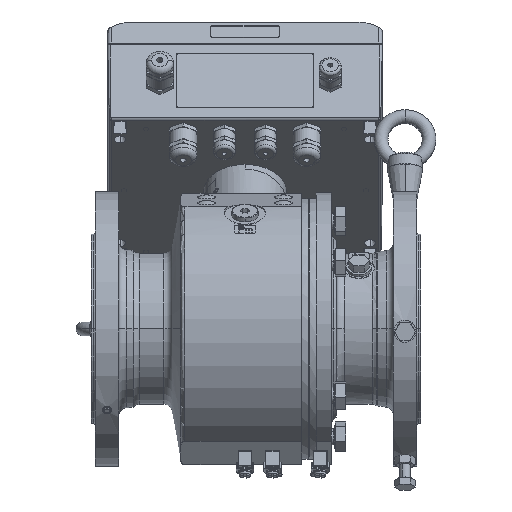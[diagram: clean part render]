
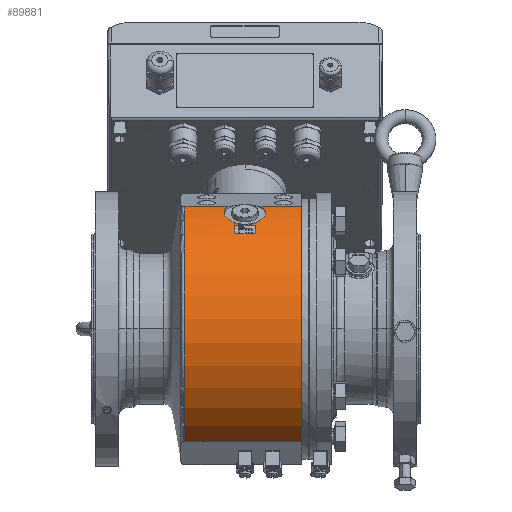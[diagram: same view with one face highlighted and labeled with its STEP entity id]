
A CAD part, front view. The second image highlights one B-rep face of the part: STEP entity #89881.
In plain terms, the highlighted cylindrical face has radius 99 mm (diameter 198 mm), a partial arc.
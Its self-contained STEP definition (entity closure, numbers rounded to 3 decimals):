
#17620=DIRECTION('',(-1.,0.,0.));
#17621=VECTOR('',#17620,28.404);
#17622=CARTESIAN_POINT('',(41.,-43.834,88.767));
#17623=LINE('4603',#17622,#17621);
#17627=CARTESIAN_POINT('',(41.,0.,0.));
#17628=DIRECTION('',(1.,0.,0.));
#17629=DIRECTION('',(0.,-0.443,0.897));
#17630=AXIS2_PLACEMENT_3D('',#17627,#17628,#17629);
#17635=DIRECTION('',(-1.,0.,0.));
#17636=VECTOR('',#17635,84.724);
#17637=CARTESIAN_POINT('',(41.,-55.85,-81.742));
#17638=LINE('4594',#17637,#17636);
#17642=DIRECTION('',(-1.,0.,0.));
#17643=VECTOR('',#17642,31.128);
#17644=CARTESIAN_POINT('',(-12.596,-43.834,
88.767));
#17645=LINE('4604',#17644,#17643);
#17994=CARTESIAN_POINT('',(-43.724,0.,0.));
#17995=DIRECTION('',(1.,0.,0.));
#17996=DIRECTION('',(0.,-0.443,0.897));
#17997=AXIS2_PLACEMENT_3D('',#17994,#17995,#17996);
#32644=CARTESIAN_POINT('',(12.596,-43.834,
88.767));
#32645=CARTESIAN_POINT('',(12.748,-44.045,
88.663));
#32646=CARTESIAN_POINT('',(13.038,-44.474,
88.449));
#32647=CARTESIAN_POINT('',(13.433,-45.135,
88.113));
#32648=CARTESIAN_POINT('',(13.785,-45.811,
87.764));
#32649=CARTESIAN_POINT('',(14.094,-46.5,
87.401));
#32650=CARTESIAN_POINT('',(14.359,-47.198,
87.026));
#32651=CARTESIAN_POINT('',(14.579,-47.905,
86.639));
#32652=CARTESIAN_POINT('',(14.754,-48.616,
86.242));
#32653=CARTESIAN_POINT('',(14.884,-49.332,
85.835));
#32654=CARTESIAN_POINT('',(14.968,-50.048,
85.419));
#32655=CARTESIAN_POINT('',(15.005,-50.764,
84.996));
#32656=CARTESIAN_POINT('',(14.997,-51.477,
84.566));
#32657=CARTESIAN_POINT('',(14.942,-52.184,
84.131));
#32658=CARTESIAN_POINT('',(14.842,-52.886,
83.692));
#32659=CARTESIAN_POINT('',(14.695,-53.577,
83.251));
#32660=CARTESIAN_POINT('',(14.503,-54.258,
82.809));
#32661=CARTESIAN_POINT('',(14.266,-54.926,
82.367));
#32662=CARTESIAN_POINT('',(13.985,-55.58,
81.927));
#32663=CARTESIAN_POINT('',(13.66,-56.217,
81.491));
#32664=CARTESIAN_POINT('',(13.292,-56.836,
81.061));
#32665=CARTESIAN_POINT('',(12.882,-57.435,
80.637));
#32666=CARTESIAN_POINT('',(12.432,-58.011,
80.224));
#32667=CARTESIAN_POINT('',(11.942,-58.565,
79.82));
#32668=CARTESIAN_POINT('',(11.415,-59.093,
79.43));
#32669=CARTESIAN_POINT('',(10.851,-59.595,
79.054));
#32670=CARTESIAN_POINT('',(10.254,-60.069,
78.695));
#32671=CARTESIAN_POINT('',(9.625,-60.513,
78.353));
#32672=CARTESIAN_POINT('',(8.965,-60.927,
78.032));
#32673=CARTESIAN_POINT('',(8.279,-61.31,
77.732));
#32674=CARTESIAN_POINT('',(7.566,-61.66,
77.454));
#32675=CARTESIAN_POINT('',(6.831,-61.977,
77.201));
#32676=CARTESIAN_POINT('',(6.075,-62.26,
76.972));
#32677=CARTESIAN_POINT('',(5.301,-62.508,
76.771));
#32678=CARTESIAN_POINT('',(4.512,-62.722,
76.596));
#32679=CARTESIAN_POINT('',(3.709,-62.901,
76.449));
#32680=CARTESIAN_POINT('',(2.896,-63.044,
76.331));
#32681=CARTESIAN_POINT('',(2.074,-63.151,
76.242));
#32682=CARTESIAN_POINT('',(1.247,-63.223,
76.183));
#32683=CARTESIAN_POINT('',(0.416,-63.259,
76.153));
#32684=CARTESIAN_POINT('',(-0.416,-63.259,
76.153));
#32685=CARTESIAN_POINT('',(-1.247,-63.223,
76.183));
#32686=CARTESIAN_POINT('',(-2.074,-63.151,
76.242));
#32687=CARTESIAN_POINT('',(-2.896,-63.044,
76.331));
#32688=CARTESIAN_POINT('',(-3.709,-62.901,
76.449));
#32689=CARTESIAN_POINT('',(-4.512,-62.722,
76.596));
#32690=CARTESIAN_POINT('',(-5.301,-62.508,
76.771));
#32691=CARTESIAN_POINT('',(-6.075,-62.26,
76.972));
#32692=CARTESIAN_POINT('',(-6.831,-61.977,
77.201));
#32693=CARTESIAN_POINT('',(-7.566,-61.66,
77.454));
#32694=CARTESIAN_POINT('',(-8.279,-61.31,
77.732));
#32695=CARTESIAN_POINT('',(-8.965,-60.927,
78.032));
#32696=CARTESIAN_POINT('',(-9.625,-60.513,
78.353));
#32697=CARTESIAN_POINT('',(-10.254,-60.069,
78.695));
#32698=CARTESIAN_POINT('',(-10.851,-59.595,
79.054));
#32699=CARTESIAN_POINT('',(-11.415,-59.093,
79.43));
#32700=CARTESIAN_POINT('',(-11.942,-58.565,
79.82));
#32701=CARTESIAN_POINT('',(-12.432,-58.011,
80.224));
#32702=CARTESIAN_POINT('',(-12.882,-57.435,
80.637));
#32703=CARTESIAN_POINT('',(-13.292,-56.836,
81.061));
#32704=CARTESIAN_POINT('',(-13.66,-56.217,
81.491));
#32705=CARTESIAN_POINT('',(-13.985,-55.58,
81.927));
#32706=CARTESIAN_POINT('',(-14.266,-54.926,
82.367));
#32707=CARTESIAN_POINT('',(-14.503,-54.258,
82.809));
#32708=CARTESIAN_POINT('',(-14.695,-53.577,
83.251));
#32709=CARTESIAN_POINT('',(-14.842,-52.886,
83.692));
#32710=CARTESIAN_POINT('',(-14.942,-52.184,
84.131));
#32711=CARTESIAN_POINT('',(-14.997,-51.477,
84.566));
#32712=CARTESIAN_POINT('',(-15.005,-50.764,
84.996));
#32713=CARTESIAN_POINT('',(-14.968,-50.048,
85.419));
#32714=CARTESIAN_POINT('',(-14.884,-49.332,
85.835));
#32715=CARTESIAN_POINT('',(-14.754,-48.616,
86.242));
#32716=CARTESIAN_POINT('',(-14.579,-47.905,
86.639));
#32717=CARTESIAN_POINT('',(-14.359,-47.198,
87.026));
#32718=CARTESIAN_POINT('',(-14.094,-46.5,
87.401));
#32719=CARTESIAN_POINT('',(-13.785,-45.811,
87.764));
#32720=CARTESIAN_POINT('',(-13.433,-45.135,
88.113));
#32721=CARTESIAN_POINT('',(-13.038,-44.474,
88.449));
#32722=CARTESIAN_POINT('',(-12.748,-44.045,
88.663));
#32723=CARTESIAN_POINT('',(-12.596,-43.834,
88.767));
#68194=CARTESIAN_POINT('',(41.,-55.85,-81.742));
#68195=CARTESIAN_POINT('',(-43.724,-55.85,
-81.742));
#68196=VERTEX_POINT('',#68194);
#68197=VERTEX_POINT('',#68195);
#68202=CARTESIAN_POINT('',(41.,-43.834,88.767));
#68203=CARTESIAN_POINT('',(12.596,-43.834,
88.767));
#68204=VERTEX_POINT('',#68202);
#68205=VERTEX_POINT('',#68203);
#68206=CARTESIAN_POINT('',(-12.596,-43.834,
88.767));
#68207=CARTESIAN_POINT('',(-43.724,-43.834,
88.767));
#68208=VERTEX_POINT('',#68206);
#68209=VERTEX_POINT('',#68207);
#89864=CARTESIAN_POINT('',(58.3,0.,0.));
#89865=DIRECTION('',(-1.,0.,0.));
#89866=DIRECTION('',(0.,1.,0.));
#89867=AXIS2_PLACEMENT_3D('',#89864,#89865,#89866);
#89868=CYLINDRICAL_SURFACE('4010',#89867,99.);
#89869=ORIENTED_EDGE('4603',*,*,#89811,.F.);
#89871=ORIENTED_EDGE('4608',*,*,#89870,.T.);
#89873=ORIENTED_EDGE('4594',*,*,#89872,.T.);
#89875=ORIENTED_EDGE('4610',*,*,#89874,.F.);
#89876=ORIENTED_EDGE('4604',*,*,#89819,.F.);
#89878=ORIENTED_EDGE('4632',*,*,#89877,.F.);
#89879=EDGE_LOOP('4010',(#89869,#89871,#89873,#89875,#89876,#89878));
#89880=FACE_OUTER_BOUND('4010',#89879,.F.);
#17631=CIRCLE('4608',#17630,99.);
#17998=CIRCLE('4610',#17997,99.);
#32724=B_SPLINE_CURVE_WITH_KNOTS('4632',3,(#32644,#32645,#32646,#32647,#32648,
#32649,#32650,#32651,#32652,#32653,#32654,#32655,#32656,#32657,#32658,#32659,
#32660,#32661,#32662,#32663,#32664,#32665,#32666,#32667,#32668,#32669,#32670,
#32671,#32672,#32673,#32674,#32675,#32676,#32677,#32678,#32679,#32680,#32681,
#32682,#32683,#32684,#32685,#32686,#32687,#32688,#32689,#32690,#32691,#32692,
#32693,#32694,#32695,#32696,#32697,#32698,#32699,#32700,#32701,#32702,#32703,
#32704,#32705,#32706,#32707,#32708,#32709,#32710,#32711,#32712,#32713,#32714,
#32715,#32716,#32717,#32718,#32719,#32720,#32721,#32722,#32723),.UNSPECIFIED.,
.F.,.F.,(4,1,1,1,1,1,1,1,1,1,1,1,1,1,1,1,1,1,1,1,1,1,1,1,1,1,1,1,1,1,1,1,1,1,1,
1,1,1,1,1,1,1,1,1,1,1,1,1,1,1,1,1,1,1,1,1,1,1,1,1,1,1,1,1,1,1,1,1,1,1,1,1,1,1,1,
1,1,4),(0.,0.013,0.026,0.039,
0.052,0.065,0.078,0.091,
0.104,0.117,0.13,0.143,
0.156,0.169,0.182,0.195,
0.208,0.221,0.234,0.247,
0.26,0.273,0.286,0.299,
0.312,0.325,0.338,0.351,
0.364,0.377,0.39,0.403,
0.416,0.429,0.442,0.455,
0.468,0.481,0.494,0.506,
0.519,0.532,0.545,0.558,
0.571,0.584,0.597,0.61,
0.623,0.636,0.649,0.662,
0.675,0.688,0.701,0.714,
0.727,0.74,0.753,0.766,
0.779,0.792,0.805,0.818,
0.831,0.844,0.857,0.87,
0.883,0.896,0.909,0.922,
0.935,0.948,0.961,0.974,
0.987,1.),.UNSPECIFIED.);
#89811=EDGE_CURVE('4603',#68204,#68205,#17623,.T.);
#89819=EDGE_CURVE('4604',#68208,#68209,#17645,.T.);
#89870=EDGE_CURVE('4608',#68204,#68196,#17631,.T.);
#89872=EDGE_CURVE('4594',#68196,#68197,#17638,.T.);
#89874=EDGE_CURVE('4610',#68209,#68197,#17998,.T.);
#89877=EDGE_CURVE('4632',#68205,#68208,#32724,.T.);
#89881=ADVANCED_FACE('4010',(#89880),#89868,.T.);
